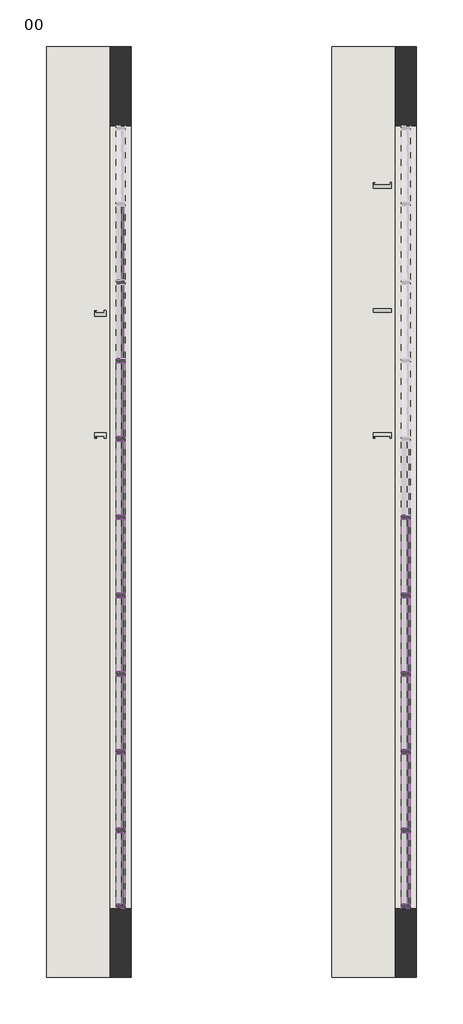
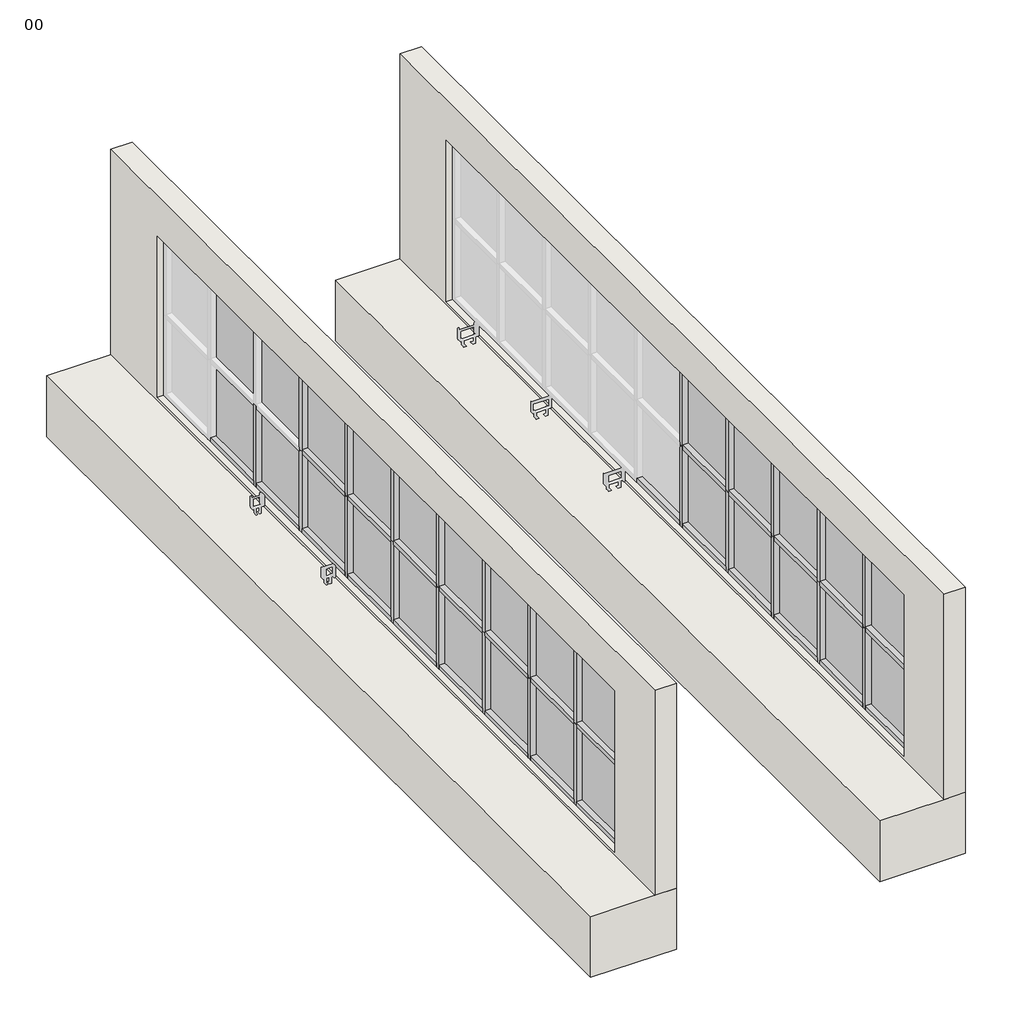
# One storey, part 1 of 4: 69 members, 28 plates, 4 walls.
"""IFC4 building model written with IfcOpenShell, lengths in millimetres."""

from ifc_helpers import new_model, si_unit, frame, origin, place, context, project, spatial, polyline, outline, extrude, faceted_brep, transform, mapped, element, save
from components import member_c66fc3aa, member_e0e8bc7f, member_2b49869a, member_e70b02d8, member_ac28e731, member_75074519, member_3d44bae5, member_bad99366, system_panel_glazed_e46957e3, system_panel_glazed_e2c07b03, system_panel_glazed_19fcf1f5, system_panel_glazed_c41cfb10

model = new_model("IFC4")

# Units and contexts
model_context = context("Model", 3, world=origin())
ifc_project = project(units=[si_unit("LENGTHUNIT", "METRE", prefix="MILLI")], contexts=[model_context])

# Site, building, storey
site = spatial("IfcSite", under=ifc_project)
building = spatial("IfcBuilding", under=site)
storey = spatial("IfcBuildingStorey", under=building, Name="00", Elevation=0.0)

# Members
placement = place(None, origin())
member_shape = member_c66fc3aa(model_context)
element("IfcMember", 1, ObjectType="Rectangular Mullion : 2.5\" x 5\" rectangular", at=placement, inside=storey, context=model_context, shape_type="MappedRepresentation", body=[
    mapped(member_shape, transform((11996.5938902, 990.0404245, 3390.4), x_axis=(0.0, 0.0, 1.0), y_axis=(1.0, 0.0, 0.0), z_axis=(0.0, 1.0, 0.0))),
])
element("IfcMember", 2, ObjectType="Rectangular Mullion : 2.5\" x 5\" rectangular", at=placement, inside=storey, context=model_context, shape_type="MappedRepresentation", body=[
    mapped(member_shape, transform((11996.5938902, 2117.8004244, 3390.4), x_axis=(0.0, 0.0, 1.0), y_axis=(1.0, 0.0, 0.0), z_axis=(0.0, 1.0, 0.0))),
])
element("IfcMember", 3, ObjectType="Rectangular Mullion : 2.5\" x 5\" rectangular", at=placement, inside=storey, context=model_context, shape_type="MappedRepresentation", body=[
    mapped(member_shape, transform((11996.5938902, 3245.5604244, 3390.4), x_axis=(0.0, 0.0, 1.0), y_axis=(1.0, 0.0, 0.0), z_axis=(0.0, 1.0, 0.0))),
])
member_2_shape = member_e0e8bc7f(model_context)
element("IfcMember", 4, ObjectType="Rectangular Mullion : 2.5\" x 5\" rectangular", at=placement, inside=storey, context=model_context, shape_type="MappedRepresentation", body=[
    mapped(member_2_shape, transform((16111.3938902, -5681.2695754, 965.2), x_axis=(0.0, 0.0, -1.0), y_axis=(1.0, 0.0, 0.0), z_axis=(0.0, -1.0, 0.0))),
])
element("IfcMember", 5, ObjectType="Rectangular Mullion : 2.5\" x 5\" rectangular", at=placement, inside=storey, context=model_context, shape_type="MappedRepresentation", body=[
    mapped(member_2_shape, transform((11996.5938902, -5681.2695754, 965.2), x_axis=(0.0, 0.0, -1.0), y_axis=(1.0, 0.0, 0.0), z_axis=(0.0, -1.0, 0.0))),
])
element("IfcMember", 6, ObjectType="Rectangular Mullion : 2.5\" x 5\" rectangular", at=placement, inside=storey, context=model_context, shape_type="MappedRepresentation", body=[
    mapped(member_shape, transform((11996.5938902, 1053.5404245, 965.2), x_axis=(0.0, 0.0, -1.0), y_axis=(1.0, 0.0, 0.0), z_axis=(0.0, -1.0, 0.0))),
])
element("IfcMember", 7, ObjectType="Rectangular Mullion : 2.5\" x 5\" rectangular", at=placement, inside=storey, context=model_context, shape_type="MappedRepresentation", body=[
    mapped(member_shape, transform((11996.5938902, 2181.3004244, 965.2), x_axis=(0.0, 0.0, -1.0), y_axis=(1.0, 0.0, 0.0), z_axis=(0.0, -1.0, 0.0))),
])
element("IfcMember", 8, ObjectType="Rectangular Mullion : 2.5\" x 5\" rectangular", at=placement, inside=storey, context=model_context, shape_type="MappedRepresentation", body=[
    mapped(member_shape, transform((11996.5938902, 3309.0604244, 965.2), x_axis=(0.0, 0.0, -1.0), y_axis=(1.0, 0.0, 0.0), z_axis=(0.0, -1.0, 0.0))),
])
member_3_shape = member_2b49869a(model_context)
element("IfcMember", 9, ObjectType="Rectangular Mullion : 2.5\" x 5\" rectangular", at=placement, inside=storey, context=model_context, shape_type="MappedRepresentation", body=[
    mapped(member_3_shape, transform((11996.5938902, 1021.7904245, 965.2), x_axis=(0.0, 1.0, 0.0), y_axis=(1.0, 0.0, 0.0), z_axis=(0.0, 0.0, -1.0))),
])
element("IfcMember", 10, ObjectType="Rectangular Mullion : 2.5\" x 5\" rectangular", at=placement, inside=storey, context=model_context, shape_type="MappedRepresentation", body=[
    mapped(member_3_shape, transform((11996.5938902, 2149.5504244, 965.2), x_axis=(0.0, 1.0, 0.0), y_axis=(1.0, 0.0, 0.0), z_axis=(0.0, 0.0, -1.0))),
])
element("IfcMember", 11, ObjectType="Rectangular Mullion : 2.5\" x 5\" rectangular", at=placement, inside=storey, context=model_context, shape_type="MappedRepresentation", body=[
    mapped(member_3_shape, transform((11996.5938902, 3277.3104244, 965.2), x_axis=(0.0, 1.0, 0.0), y_axis=(1.0, 0.0, 0.0), z_axis=(0.0, 0.0, -1.0))),
])
member_4_shape = member_e70b02d8(model_context)
element("IfcMember", 12, ObjectType="Rectangular Mullion : 2.5\" x 5\" rectangular", at=placement, inside=storey, context=model_context, shape_type="MappedRepresentation", body=[
    mapped(member_4_shape, transform((11996.5938902, 2117.8004244, 2184.4), x_axis=(0.0, 0.0, 1.0), y_axis=(1.0, 0.0, 0.0), z_axis=(0.0, 1.0, 0.0))),
])
element("IfcMember", 13, ObjectType="Rectangular Mullion : 2.5\" x 5\" rectangular", at=placement, inside=storey, context=model_context, shape_type="MappedRepresentation", body=[
    mapped(member_shape, transform((16111.3938902, -137.7195754, 3390.4), x_axis=(0.0, 0.0, 1.0), y_axis=(1.0, 0.0, 0.0), z_axis=(0.0, 1.0, 0.0))),
])
element("IfcMember", 14, ObjectType="Rectangular Mullion : 2.5\" x 5\" rectangular", at=placement, inside=storey, context=model_context, shape_type="MappedRepresentation", body=[
    mapped(member_shape, transform((16111.3938902, -1265.4795754, 3390.4), x_axis=(0.0, 0.0, 1.0), y_axis=(1.0, 0.0, 0.0), z_axis=(0.0, 1.0, 0.0))),
])
element("IfcMember", 15, ObjectType="Rectangular Mullion : 2.5\" x 5\" rectangular", at=placement, inside=storey, context=model_context, shape_type="MappedRepresentation", body=[
    mapped(member_shape, transform((16111.3938902, -3520.9995752, 3390.4), x_axis=(0.0, 0.0, 1.0), y_axis=(1.0, 0.0, 0.0), z_axis=(0.0, 1.0, 0.0))),
])
element("IfcMember", 16, ObjectType="Rectangular Mullion : 2.5\" x 5\" rectangular", at=placement, inside=storey, context=model_context, shape_type="MappedRepresentation", body=[
    mapped(member_shape, transform((16111.3938902, -2393.2395753, 3390.4), x_axis=(0.0, 0.0, 1.0), y_axis=(1.0, 0.0, 0.0), z_axis=(0.0, 1.0, 0.0))),
])
element("IfcMember", 17, ObjectType="Rectangular Mullion : 2.5\" x 5\" rectangular", at=placement, inside=storey, context=model_context, shape_type="MappedRepresentation", body=[
    mapped(member_shape, transform((11996.5938902, -137.7195754, 3390.4), x_axis=(0.0, 0.0, 1.0), y_axis=(1.0, 0.0, 0.0), z_axis=(0.0, 1.0, 0.0))),
])
element("IfcMember", 18, ObjectType="Rectangular Mullion : 2.5\" x 5\" rectangular", at=placement, inside=storey, context=model_context, shape_type="MappedRepresentation", body=[
    mapped(member_shape, transform((11996.5938902, -1265.4795754, 3390.4), x_axis=(0.0, 0.0, 1.0), y_axis=(1.0, 0.0, 0.0), z_axis=(0.0, 1.0, 0.0))),
])
element("IfcMember", 19, ObjectType="Rectangular Mullion : 2.5\" x 5\" rectangular", at=placement, inside=storey, context=model_context, shape_type="MappedRepresentation", body=[
    mapped(member_shape, transform((11996.5938902, -3520.9995752, 3390.4), x_axis=(0.0, 0.0, 1.0), y_axis=(1.0, 0.0, 0.0), z_axis=(0.0, 1.0, 0.0))),
])
element("IfcMember", 20, ObjectType="Rectangular Mullion : 2.5\" x 5\" rectangular", at=placement, inside=storey, context=model_context, shape_type="MappedRepresentation", body=[
    mapped(member_shape, transform((11996.5938902, -2393.2395753, 3390.4), x_axis=(0.0, 0.0, 1.0), y_axis=(1.0, 0.0, 0.0), z_axis=(0.0, 1.0, 0.0))),
])
element("IfcMember", 21, ObjectType="Rectangular Mullion : 2.5\" x 5\" rectangular", at=placement, inside=storey, context=model_context, shape_type="MappedRepresentation", body=[
    mapped(member_shape, transform((16111.3938902, -74.2195754, 965.2), x_axis=(0.0, 0.0, -1.0), y_axis=(1.0, 0.0, 0.0), z_axis=(0.0, -1.0, 0.0))),
])
element("IfcMember", 22, ObjectType="Rectangular Mullion : 2.5\" x 5\" rectangular", at=placement, inside=storey, context=model_context, shape_type="MappedRepresentation", body=[
    mapped(member_shape, transform((16111.3938902, -1201.9795754, 965.2), x_axis=(0.0, 0.0, -1.0), y_axis=(1.0, 0.0, 0.0), z_axis=(0.0, -1.0, 0.0))),
])
element("IfcMember", 23, ObjectType="Rectangular Mullion : 2.5\" x 5\" rectangular", at=placement, inside=storey, context=model_context, shape_type="MappedRepresentation", body=[
    mapped(member_shape, transform((16111.3938902, -4585.2595752, 965.2), x_axis=(0.0, 0.0, -1.0), y_axis=(1.0, 0.0, 0.0), z_axis=(0.0, -1.0, 0.0))),
])
element("IfcMember", 24, ObjectType="Rectangular Mullion : 2.5\" x 5\" rectangular", at=placement, inside=storey, context=model_context, shape_type="MappedRepresentation", body=[
    mapped(member_shape, transform((16111.3938902, -3457.4995752, 965.2), x_axis=(0.0, 0.0, -1.0), y_axis=(1.0, 0.0, 0.0), z_axis=(0.0, -1.0, 0.0))),
])
element("IfcMember", 25, ObjectType="Rectangular Mullion : 2.5\" x 5\" rectangular", at=placement, inside=storey, context=model_context, shape_type="MappedRepresentation", body=[
    mapped(member_shape, transform((16111.3938902, -2329.7395753, 965.2), x_axis=(0.0, 0.0, -1.0), y_axis=(1.0, 0.0, 0.0), z_axis=(0.0, -1.0, 0.0))),
])
element("IfcMember", 26, ObjectType="Rectangular Mullion : 2.5\" x 5\" rectangular", at=placement, inside=storey, context=model_context, shape_type="MappedRepresentation", body=[
    mapped(member_shape, transform((11996.5938902, -74.2195754, 965.2), x_axis=(0.0, 0.0, -1.0), y_axis=(1.0, 0.0, 0.0), z_axis=(0.0, -1.0, 0.0))),
])
element("IfcMember", 27, ObjectType="Rectangular Mullion : 2.5\" x 5\" rectangular", at=placement, inside=storey, context=model_context, shape_type="MappedRepresentation", body=[
    mapped(member_shape, transform((11996.5938902, -1201.9795754, 965.2), x_axis=(0.0, 0.0, -1.0), y_axis=(1.0, 0.0, 0.0), z_axis=(0.0, -1.0, 0.0))),
])
element("IfcMember", 28, ObjectType="Rectangular Mullion : 2.5\" x 5\" rectangular", at=placement, inside=storey, context=model_context, shape_type="MappedRepresentation", body=[
    mapped(member_shape, transform((11996.5938902, -4585.2595752, 965.2), x_axis=(0.0, 0.0, -1.0), y_axis=(1.0, 0.0, 0.0), z_axis=(0.0, -1.0, 0.0))),
])
element("IfcMember", 29, ObjectType="Rectangular Mullion : 2.5\" x 5\" rectangular", at=placement, inside=storey, context=model_context, shape_type="MappedRepresentation", body=[
    mapped(member_shape, transform((11996.5938902, -3457.4995752, 965.2), x_axis=(0.0, 0.0, -1.0), y_axis=(1.0, 0.0, 0.0), z_axis=(0.0, -1.0, 0.0))),
])
element("IfcMember", 30, ObjectType="Rectangular Mullion : 2.5\" x 5\" rectangular", at=placement, inside=storey, context=model_context, shape_type="MappedRepresentation", body=[
    mapped(member_shape, transform((11996.5938902, -2329.7395753, 965.2), x_axis=(0.0, 0.0, -1.0), y_axis=(1.0, 0.0, 0.0), z_axis=(0.0, -1.0, 0.0))),
])
element("IfcMember", 31, ObjectType="Rectangular Mullion : 2.5\" x 5\" rectangular", at=placement, inside=storey, context=model_context, shape_type="MappedRepresentation", body=[
    mapped(member_4_shape, transform((16111.3938902, -137.7195754, 2184.4), x_axis=(0.0, 0.0, 1.0), y_axis=(1.0, 0.0, 0.0), z_axis=(0.0, 1.0, 0.0))),
])
element("IfcMember", 32, ObjectType="Rectangular Mullion : 2.5\" x 5\" rectangular", at=placement, inside=storey, context=model_context, shape_type="MappedRepresentation", body=[
    mapped(member_4_shape, transform((16111.3938902, -3520.9995752, 2184.4), x_axis=(0.0, 0.0, 1.0), y_axis=(1.0, 0.0, 0.0), z_axis=(0.0, 1.0, 0.0))),
])
element("IfcMember", 33, ObjectType="Rectangular Mullion : 2.5\" x 5\" rectangular", at=placement, inside=storey, context=model_context, shape_type="MappedRepresentation", body=[
    mapped(member_4_shape, transform((16111.3938902, -2393.2395753, 2184.4), x_axis=(0.0, 0.0, 1.0), y_axis=(1.0, 0.0, 0.0), z_axis=(0.0, 1.0, 0.0))),
])
element("IfcMember", 34, ObjectType="Rectangular Mullion : 2.5\" x 5\" rectangular", at=placement, inside=storey, context=model_context, shape_type="MappedRepresentation", body=[
    mapped(member_4_shape, transform((16111.3938902, -1265.4795754, 2184.4), x_axis=(0.0, 0.0, 1.0), y_axis=(1.0, 0.0, 0.0), z_axis=(0.0, 1.0, 0.0))),
])
element("IfcMember", 35, ObjectType="Rectangular Mullion : 2.5\" x 5\" rectangular", at=placement, inside=storey, context=model_context, shape_type="MappedRepresentation", body=[
    mapped(member_4_shape, transform((11996.5938902, 990.0404245, 2184.4), x_axis=(0.0, 0.0, 1.0), y_axis=(1.0, 0.0, 0.0), z_axis=(0.0, 1.0, 0.0))),
])
element("IfcMember", 36, ObjectType="Rectangular Mullion : 2.5\" x 5\" rectangular", at=placement, inside=storey, context=model_context, shape_type="MappedRepresentation", body=[
    mapped(member_4_shape, transform((11996.5938902, -137.7195754, 2184.4), x_axis=(0.0, 0.0, 1.0), y_axis=(1.0, 0.0, 0.0), z_axis=(0.0, 1.0, 0.0))),
])
element("IfcMember", 37, ObjectType="Rectangular Mullion : 2.5\" x 5\" rectangular", at=placement, inside=storey, context=model_context, shape_type="MappedRepresentation", body=[
    mapped(member_4_shape, transform((11996.5938902, -3520.9995752, 2184.4), x_axis=(0.0, 0.0, 1.0), y_axis=(1.0, 0.0, 0.0), z_axis=(0.0, 1.0, 0.0))),
])
element("IfcMember", 38, ObjectType="Rectangular Mullion : 2.5\" x 5\" rectangular", at=placement, inside=storey, context=model_context, shape_type="MappedRepresentation", body=[
    mapped(member_4_shape, transform((11996.5938902, -2393.2395753, 2184.4), x_axis=(0.0, 0.0, 1.0), y_axis=(1.0, 0.0, 0.0), z_axis=(0.0, 1.0, 0.0))),
])
element("IfcMember", 39, ObjectType="Rectangular Mullion : 2.5\" x 5\" rectangular", at=placement, inside=storey, context=model_context, shape_type="MappedRepresentation", body=[
    mapped(member_4_shape, transform((11996.5938902, -1265.4795754, 2184.4), x_axis=(0.0, 0.0, 1.0), y_axis=(1.0, 0.0, 0.0), z_axis=(0.0, 1.0, 0.0))),
])
element("IfcMember", 40, ObjectType="Rectangular Mullion : 2.5\" x 5\" rectangular", at=placement, inside=storey, context=model_context, shape_type="MappedRepresentation", body=[
    mapped(member_3_shape, transform((16111.3938902, -105.9695754, 965.2), x_axis=(0.0, 1.0, 0.0), y_axis=(1.0, 0.0, 0.0), z_axis=(0.0, 0.0, -1.0))),
])
element("IfcMember", 41, ObjectType="Rectangular Mullion : 2.5\" x 5\" rectangular", at=placement, inside=storey, context=model_context, shape_type="MappedRepresentation", body=[
    mapped(member_3_shape, transform((16111.3938902, -1233.7295754, 965.2), x_axis=(0.0, 1.0, 0.0), y_axis=(1.0, 0.0, 0.0), z_axis=(0.0, 0.0, -1.0))),
])
element("IfcMember", 42, ObjectType="Rectangular Mullion : 2.5\" x 5\" rectangular", at=placement, inside=storey, context=model_context, shape_type="MappedRepresentation", body=[
    mapped(member_3_shape, transform((16111.3938902, -2361.4895753, 965.2), x_axis=(0.0, 1.0, 0.0), y_axis=(1.0, 0.0, 0.0), z_axis=(0.0, 0.0, -1.0))),
])
element("IfcMember", 43, ObjectType="Rectangular Mullion : 2.5\" x 5\" rectangular", at=placement, inside=storey, context=model_context, shape_type="MappedRepresentation", body=[
    mapped(member_3_shape, transform((16111.3938902, -3489.2495752, 965.2), x_axis=(0.0, 1.0, 0.0), y_axis=(1.0, 0.0, 0.0), z_axis=(0.0, 0.0, -1.0))),
])
element("IfcMember", 44, ObjectType="Rectangular Mullion : 2.5\" x 5\" rectangular", at=placement, inside=storey, context=model_context, shape_type="MappedRepresentation", body=[
    mapped(member_3_shape, transform((16111.3938902, -4617.0095752, 965.2), x_axis=(0.0, 1.0, 0.0), y_axis=(1.0, 0.0, 0.0), z_axis=(0.0, 0.0, -1.0))),
])
element("IfcMember", 45, ObjectType="Rectangular Mullion : 2.5\" x 5\" rectangular", at=placement, inside=storey, context=model_context, shape_type="MappedRepresentation", body=[
    mapped(member_3_shape, transform((11996.5938902, -105.9695754, 965.2), x_axis=(0.0, 1.0, 0.0), y_axis=(1.0, 0.0, 0.0), z_axis=(0.0, 0.0, -1.0))),
])
element("IfcMember", 46, ObjectType="Rectangular Mullion : 2.5\" x 5\" rectangular", at=placement, inside=storey, context=model_context, shape_type="MappedRepresentation", body=[
    mapped(member_3_shape, transform((11996.5938902, -1233.7295754, 965.2), x_axis=(0.0, 1.0, 0.0), y_axis=(1.0, 0.0, 0.0), z_axis=(0.0, 0.0, -1.0))),
])
element("IfcMember", 47, ObjectType="Rectangular Mullion : 2.5\" x 5\" rectangular", at=placement, inside=storey, context=model_context, shape_type="MappedRepresentation", body=[
    mapped(member_3_shape, transform((11996.5938902, -2361.4895753, 965.2), x_axis=(0.0, 1.0, 0.0), y_axis=(1.0, 0.0, 0.0), z_axis=(0.0, 0.0, -1.0))),
])
element("IfcMember", 48, ObjectType="Rectangular Mullion : 2.5\" x 5\" rectangular", at=placement, inside=storey, context=model_context, shape_type="MappedRepresentation", body=[
    mapped(member_3_shape, transform((11996.5938902, -3489.2495752, 965.2), x_axis=(0.0, 1.0, 0.0), y_axis=(1.0, 0.0, 0.0), z_axis=(0.0, 0.0, -1.0))),
])
element("IfcMember", 49, ObjectType="Rectangular Mullion : 2.5\" x 5\" rectangular", at=placement, inside=storey, context=model_context, shape_type="MappedRepresentation", body=[
    mapped(member_3_shape, transform((11996.5938902, -4617.0095752, 965.2), x_axis=(0.0, 1.0, 0.0), y_axis=(1.0, 0.0, 0.0), z_axis=(0.0, 0.0, -1.0))),
])
element("IfcMember", 50, ObjectType="Rectangular Mullion : 2.5\" x 5\" rectangular", at=placement, inside=storey, context=model_context, shape_type="MappedRepresentation", body=[
    mapped(member_2_shape, transform((16111.3938902, -4648.7595752, 3390.4), x_axis=(0.0, 0.0, 1.0), y_axis=(1.0, 0.0, 0.0), z_axis=(0.0, 1.0, 0.0))),
])
element("IfcMember", 51, ObjectType="Rectangular Mullion : 2.5\" x 5\" rectangular", at=placement, inside=storey, context=model_context, shape_type="MappedRepresentation", body=[
    mapped(member_2_shape, transform((11996.5938902, -4648.7595752, 3390.4), x_axis=(0.0, 0.0, 1.0), y_axis=(1.0, 0.0, 0.0), z_axis=(0.0, 1.0, 0.0))),
])
member_5_shape = member_ac28e731(model_context)
element("IfcMember", 52, ObjectType="Rectangular Mullion : 2.5\" x 5\" rectangular", at=placement, inside=storey, context=model_context, shape_type="MappedRepresentation", body=[
    mapped(member_5_shape, transform((16111.3938902, -4648.7595752, 2184.4), x_axis=(0.0, 0.0, 1.0), y_axis=(1.0, 0.0, 0.0), z_axis=(0.0, 1.0, 0.0))),
])
element("IfcMember", 53, ObjectType="Rectangular Mullion : 2.5\" x 5\" rectangular", at=placement, inside=storey, context=model_context, shape_type="MappedRepresentation", body=[
    mapped(member_5_shape, transform((11996.5938902, -4648.7595752, 2184.4), x_axis=(0.0, 0.0, 1.0), y_axis=(1.0, 0.0, 0.0), z_axis=(0.0, 1.0, 0.0))),
])
member_6_shape = member_75074519(model_context)
element("IfcMember", 54, ObjectType="Rectangular Mullion : 2.5\" x 5\" rectangular", at=placement, inside=storey, context=model_context, shape_type="MappedRepresentation", body=[
    mapped(member_6_shape, transform((16111.3938902, -5744.7695754, 2184.4), x_axis=(0.0, -1.0, 0.0), y_axis=(1.0, 0.0, 0.0), z_axis=(0.0, 0.0, 1.0))),
])
element("IfcMember", 55, ObjectType="Rectangular Mullion : 2.5\" x 5\" rectangular", at=placement, inside=storey, context=model_context, shape_type="MappedRepresentation", body=[
    mapped(member_6_shape, transform((11996.5938902, -5744.7695754, 2184.4), x_axis=(0.0, -1.0, 0.0), y_axis=(1.0, 0.0, 0.0), z_axis=(0.0, 0.0, 1.0))),
])
member_7_shape = member_3d44bae5(model_context)
element("IfcMember", 56, ObjectType="Rectangular Mullion : 2.5\" x 5\" rectangular", at=placement, inside=storey, context=model_context, shape_type="MappedRepresentation", body=[
    mapped(member_7_shape, transform((11996.5938902, 1021.7904245, 2184.4), x_axis=(0.0, 1.0, 0.0), y_axis=(1.0, 0.0, 0.0), z_axis=(0.0, 0.0, -1.0))),
])
element("IfcMember", 57, ObjectType="Rectangular Mullion : 2.5\" x 5\" rectangular", at=placement, inside=storey, context=model_context, shape_type="MappedRepresentation", body=[
    mapped(member_7_shape, transform((11996.5938902, 2149.5504244, 2184.4), x_axis=(0.0, 1.0, 0.0), y_axis=(1.0, 0.0, 0.0), z_axis=(0.0, 0.0, -1.0))),
])
element("IfcMember", 58, ObjectType="Rectangular Mullion : 2.5\" x 5\" rectangular", at=placement, inside=storey, context=model_context, shape_type="MappedRepresentation", body=[
    mapped(member_7_shape, transform((16111.3938902, -105.9695754, 2184.4), x_axis=(0.0, 1.0, 0.0), y_axis=(1.0, 0.0, 0.0), z_axis=(0.0, 0.0, -1.0))),
])
element("IfcMember", 59, ObjectType="Rectangular Mullion : 2.5\" x 5\" rectangular", at=placement, inside=storey, context=model_context, shape_type="MappedRepresentation", body=[
    mapped(member_7_shape, transform((16111.3938902, -1233.7295754, 2184.4), x_axis=(0.0, 1.0, 0.0), y_axis=(1.0, 0.0, 0.0), z_axis=(0.0, 0.0, -1.0))),
])
element("IfcMember", 60, ObjectType="Rectangular Mullion : 2.5\" x 5\" rectangular", at=placement, inside=storey, context=model_context, shape_type="MappedRepresentation", body=[
    mapped(member_7_shape, transform((16111.3938902, -2361.4895753, 2184.4), x_axis=(0.0, 1.0, 0.0), y_axis=(1.0, 0.0, 0.0), z_axis=(0.0, 0.0, -1.0))),
])
element("IfcMember", 61, ObjectType="Rectangular Mullion : 2.5\" x 5\" rectangular", at=placement, inside=storey, context=model_context, shape_type="MappedRepresentation", body=[
    mapped(member_7_shape, transform((16111.3938902, -3489.2495752, 2184.4), x_axis=(0.0, 1.0, 0.0), y_axis=(1.0, 0.0, 0.0), z_axis=(0.0, 0.0, -1.0))),
])
element("IfcMember", 62, ObjectType="Rectangular Mullion : 2.5\" x 5\" rectangular", at=placement, inside=storey, context=model_context, shape_type="MappedRepresentation", body=[
    mapped(member_7_shape, transform((16111.3938902, -4617.0095752, 2184.4), x_axis=(0.0, 1.0, 0.0), y_axis=(1.0, 0.0, 0.0), z_axis=(0.0, 0.0, -1.0))),
])
element("IfcMember", 63, ObjectType="Rectangular Mullion : 2.5\" x 5\" rectangular", at=placement, inside=storey, context=model_context, shape_type="MappedRepresentation", body=[
    mapped(member_7_shape, transform((11996.5938902, -105.9695754, 2184.4), x_axis=(0.0, 1.0, 0.0), y_axis=(1.0, 0.0, 0.0), z_axis=(0.0, 0.0, -1.0))),
])
element("IfcMember", 64, ObjectType="Rectangular Mullion : 2.5\" x 5\" rectangular", at=placement, inside=storey, context=model_context, shape_type="MappedRepresentation", body=[
    mapped(member_7_shape, transform((11996.5938902, -1233.7295754, 2184.4), x_axis=(0.0, 1.0, 0.0), y_axis=(1.0, 0.0, 0.0), z_axis=(0.0, 0.0, -1.0))),
])
element("IfcMember", 65, ObjectType="Rectangular Mullion : 2.5\" x 5\" rectangular", at=placement, inside=storey, context=model_context, shape_type="MappedRepresentation", body=[
    mapped(member_7_shape, transform((11996.5938902, -2361.4895753, 2184.4), x_axis=(0.0, 1.0, 0.0), y_axis=(1.0, 0.0, 0.0), z_axis=(0.0, 0.0, -1.0))),
])
element("IfcMember", 66, ObjectType="Rectangular Mullion : 2.5\" x 5\" rectangular", at=placement, inside=storey, context=model_context, shape_type="MappedRepresentation", body=[
    mapped(member_7_shape, transform((11996.5938902, -3489.2495752, 2184.4), x_axis=(0.0, 1.0, 0.0), y_axis=(1.0, 0.0, 0.0), z_axis=(0.0, 0.0, -1.0))),
])
element("IfcMember", 67, ObjectType="Rectangular Mullion : 2.5\" x 5\" rectangular", at=placement, inside=storey, context=model_context, shape_type="MappedRepresentation", body=[
    mapped(member_7_shape, transform((11996.5938902, -4617.0095752, 2184.4), x_axis=(0.0, 1.0, 0.0), y_axis=(1.0, 0.0, 0.0), z_axis=(0.0, 0.0, -1.0))),
])
member_8_shape = member_bad99366(model_context)
element("IfcMember", 68, ObjectType="Rectangular Mullion : 2.5\" x 5\" rectangular", at=placement, inside=storey, context=model_context, shape_type="MappedRepresentation", body=[
    mapped(member_8_shape, transform((16111.3938902, -5744.7695754, 3390.4), x_axis=(0.0, -1.0, 0.0), y_axis=(1.0, 0.0, 0.0), z_axis=(0.0, 0.0, 1.0))),
])
element("IfcMember", 69, ObjectType="Rectangular Mullion : 2.5\" x 5\" rectangular", at=placement, inside=storey, context=model_context, shape_type="MappedRepresentation", body=[
    mapped(member_8_shape, transform((11996.5938902, -5744.7695754, 3390.4), x_axis=(0.0, -1.0, 0.0), y_axis=(1.0, 0.0, 0.0), z_axis=(0.0, 0.0, 1.0))),
])

# Plates
system_panel_glazed_shape = system_panel_glazed_e46957e3(model_context)
element("IfcPlate", 70, ObjectType="System Panel : Glazed", at=placement, inside=storey, context=model_context, shape_type="MappedRepresentation", body=[
    mapped(system_panel_glazed_shape, transform((16111.3938902, -669.8495754, 1028.7), x_axis=(0.0, 1.0, 0.0), y_axis=(-1.0, 0.0, 0.0), z_axis=(0.0, 0.0, 1.0))),
])
element("IfcPlate", 71, ObjectType="System Panel : Glazed", at=placement, inside=storey, context=model_context, shape_type="MappedRepresentation", body=[
    mapped(system_panel_glazed_shape, transform((16111.3938902, -1797.6095753, 1028.7), x_axis=(0.0, 1.0, 0.0), y_axis=(-1.0, 0.0, 0.0), z_axis=(0.0, 0.0, 1.0))),
])
element("IfcPlate", 72, ObjectType="System Panel : Glazed", at=placement, inside=storey, context=model_context, shape_type="MappedRepresentation", body=[
    mapped(system_panel_glazed_shape, transform((16111.3938902, -2925.3695753, 1028.7), x_axis=(0.0, 1.0, 0.0), y_axis=(-1.0, 0.0, 0.0), z_axis=(0.0, 0.0, 1.0))),
])
element("IfcPlate", 73, ObjectType="System Panel : Glazed", at=placement, inside=storey, context=model_context, shape_type="MappedRepresentation", body=[
    mapped(system_panel_glazed_shape, transform((16111.3938902, -4053.1295752, 1028.7), x_axis=(0.0, 1.0, 0.0), y_axis=(-1.0, 0.0, 0.0), z_axis=(0.0, 0.0, 1.0))),
])
element("IfcPlate", 74, ObjectType="System Panel : Glazed", at=placement, inside=storey, context=model_context, shape_type="MappedRepresentation", body=[
    mapped(system_panel_glazed_shape, transform((11996.5938902, 1585.6704245, 1028.7), x_axis=(0.0, 1.0, 0.0), y_axis=(-1.0, 0.0, 0.0), z_axis=(0.0, 0.0, 1.0))),
])
element("IfcPlate", 75, ObjectType="System Panel : Glazed", at=placement, inside=storey, context=model_context, shape_type="MappedRepresentation", body=[
    mapped(system_panel_glazed_shape, transform((11996.5938902, 2713.4304244, 1028.7), x_axis=(0.0, 1.0, 0.0), y_axis=(-1.0, 0.0, 0.0), z_axis=(0.0, 0.0, 1.0))),
])
element("IfcPlate", 76, ObjectType="System Panel : Glazed", at=placement, inside=storey, context=model_context, shape_type="MappedRepresentation", body=[
    mapped(system_panel_glazed_shape, transform((11996.5938902, 3841.1904244, 1028.7), x_axis=(0.0, 1.0, 0.0), y_axis=(-1.0, 0.0, 0.0), z_axis=(0.0, 0.0, 1.0))),
])
element("IfcPlate", 77, ObjectType="System Panel : Glazed", at=placement, inside=storey, context=model_context, shape_type="MappedRepresentation", body=[
    mapped(system_panel_glazed_shape, transform((11996.5938902, 457.9104245, 1028.7), x_axis=(0.0, 1.0, 0.0), y_axis=(-1.0, 0.0, 0.0), z_axis=(0.0, 0.0, 1.0))),
])
element("IfcPlate", 78, ObjectType="System Panel : Glazed", at=placement, inside=storey, context=model_context, shape_type="MappedRepresentation", body=[
    mapped(system_panel_glazed_shape, transform((11996.5938902, -669.8495754, 1028.7), x_axis=(0.0, 1.0, 0.0), y_axis=(-1.0, 0.0, 0.0), z_axis=(0.0, 0.0, 1.0))),
])
element("IfcPlate", 79, ObjectType="System Panel : Glazed", at=placement, inside=storey, context=model_context, shape_type="MappedRepresentation", body=[
    mapped(system_panel_glazed_shape, transform((11996.5938902, -1797.6095753, 1028.7), x_axis=(0.0, 1.0, 0.0), y_axis=(-1.0, 0.0, 0.0), z_axis=(0.0, 0.0, 1.0))),
])
element("IfcPlate", 80, ObjectType="System Panel : Glazed", at=placement, inside=storey, context=model_context, shape_type="MappedRepresentation", body=[
    mapped(system_panel_glazed_shape, transform((11996.5938902, -2925.3695753, 1028.7), x_axis=(0.0, 1.0, 0.0), y_axis=(-1.0, 0.0, 0.0), z_axis=(0.0, 0.0, 1.0))),
])
element("IfcPlate", 81, ObjectType="System Panel : Glazed", at=placement, inside=storey, context=model_context, shape_type="MappedRepresentation", body=[
    mapped(system_panel_glazed_shape, transform((11996.5938902, -4053.1295752, 1028.7), x_axis=(0.0, 1.0, 0.0), y_axis=(-1.0, 0.0, 0.0), z_axis=(0.0, 0.0, 1.0))),
])
system_panel_glazed_2_shape = system_panel_glazed_e2c07b03(model_context)
element("IfcPlate", 82, ObjectType="System Panel : Glazed", at=placement, inside=storey, context=model_context, shape_type="MappedRepresentation", body=[
    mapped(system_panel_glazed_2_shape, transform((16111.3938902, -5165.0145753, 1028.7), x_axis=(0.0, 1.0, 0.0), y_axis=(-1.0, 0.0, 0.0), z_axis=(0.0, 0.0, 1.0))),
])
element("IfcPlate", 83, ObjectType="System Panel : Glazed", at=placement, inside=storey, context=model_context, shape_type="MappedRepresentation", body=[
    mapped(system_panel_glazed_2_shape, transform((11996.5938902, -5165.0145753, 1028.7), x_axis=(0.0, 1.0, 0.0), y_axis=(-1.0, 0.0, 0.0), z_axis=(0.0, 0.0, 1.0))),
])
system_panel_glazed_3_shape = system_panel_glazed_19fcf1f5(model_context)
element("IfcPlate", 84, ObjectType="System Panel : Glazed", at=placement, inside=storey, context=model_context, shape_type="MappedRepresentation", body=[
    mapped(system_panel_glazed_3_shape, transform((16111.3938902, -5165.0145753, 2216.15), x_axis=(0.0, 1.0, 0.0), y_axis=(-1.0, 0.0, 0.0), z_axis=(0.0, 0.0, 1.0))),
])
element("IfcPlate", 85, ObjectType="System Panel : Glazed", at=placement, inside=storey, context=model_context, shape_type="MappedRepresentation", body=[
    mapped(system_panel_glazed_3_shape, transform((11996.5938902, -5165.0145753, 2216.15), x_axis=(0.0, 1.0, 0.0), y_axis=(-1.0, 0.0, 0.0), z_axis=(0.0, 0.0, 1.0))),
])
system_panel_glazed_4_shape = system_panel_glazed_c41cfb10(model_context)
element("IfcPlate", 86, ObjectType="System Panel : Glazed", at=placement, inside=storey, context=model_context, shape_type="MappedRepresentation", body=[
    mapped(system_panel_glazed_4_shape, transform((16111.3938902, -669.8495754, 2216.15), x_axis=(0.0, 1.0, 0.0), y_axis=(-1.0, 0.0, 0.0), z_axis=(0.0, 0.0, 1.0))),
])
element("IfcPlate", 87, ObjectType="System Panel : Glazed", at=placement, inside=storey, context=model_context, shape_type="MappedRepresentation", body=[
    mapped(system_panel_glazed_4_shape, transform((16111.3938902, -1797.6095753, 2216.15), x_axis=(0.0, 1.0, 0.0), y_axis=(-1.0, 0.0, 0.0), z_axis=(0.0, 0.0, 1.0))),
])
element("IfcPlate", 88, ObjectType="System Panel : Glazed", at=placement, inside=storey, context=model_context, shape_type="MappedRepresentation", body=[
    mapped(system_panel_glazed_4_shape, transform((16111.3938902, -2925.3695753, 2216.15), x_axis=(0.0, 1.0, 0.0), y_axis=(-1.0, 0.0, 0.0), z_axis=(0.0, 0.0, 1.0))),
])
element("IfcPlate", 89, ObjectType="System Panel : Glazed", at=placement, inside=storey, context=model_context, shape_type="MappedRepresentation", body=[
    mapped(system_panel_glazed_4_shape, transform((16111.3938902, -4053.1295752, 2216.15), x_axis=(0.0, 1.0, 0.0), y_axis=(-1.0, 0.0, 0.0), z_axis=(0.0, 0.0, 1.0))),
])
element("IfcPlate", 90, ObjectType="System Panel : Glazed", at=placement, inside=storey, context=model_context, shape_type="MappedRepresentation", body=[
    mapped(system_panel_glazed_4_shape, transform((11996.5938902, 1585.6704245, 2216.15), x_axis=(0.0, 1.0, 0.0), y_axis=(-1.0, 0.0, 0.0), z_axis=(0.0, 0.0, 1.0))),
])
element("IfcPlate", 91, ObjectType="System Panel : Glazed", at=placement, inside=storey, context=model_context, shape_type="MappedRepresentation", body=[
    mapped(system_panel_glazed_4_shape, transform((11996.5938902, 2713.4304244, 2216.15), x_axis=(0.0, 1.0, 0.0), y_axis=(-1.0, 0.0, 0.0), z_axis=(0.0, 0.0, 1.0))),
])
element("IfcPlate", 92, ObjectType="System Panel : Glazed", at=placement, inside=storey, context=model_context, shape_type="MappedRepresentation", body=[
    mapped(system_panel_glazed_4_shape, transform((11996.5938902, 3841.1904244, 2216.15), x_axis=(0.0, 1.0, 0.0), y_axis=(-1.0, 0.0, 0.0), z_axis=(0.0, 0.0, 1.0))),
])
element("IfcPlate", 93, ObjectType="System Panel : Glazed", at=placement, inside=storey, context=model_context, shape_type="MappedRepresentation", body=[
    mapped(system_panel_glazed_4_shape, transform((11996.5938902, 457.9104245, 2216.15), x_axis=(0.0, 1.0, 0.0), y_axis=(-1.0, 0.0, 0.0), z_axis=(0.0, 0.0, 1.0))),
])
element("IfcPlate", 94, ObjectType="System Panel : Glazed", at=placement, inside=storey, context=model_context, shape_type="MappedRepresentation", body=[
    mapped(system_panel_glazed_4_shape, transform((11996.5938902, -669.8495754, 2216.15), x_axis=(0.0, 1.0, 0.0), y_axis=(-1.0, 0.0, 0.0), z_axis=(0.0, 0.0, 1.0))),
])
element("IfcPlate", 95, ObjectType="System Panel : Glazed", at=placement, inside=storey, context=model_context, shape_type="MappedRepresentation", body=[
    mapped(system_panel_glazed_4_shape, transform((11996.5938902, -1797.6095753, 2216.15), x_axis=(0.0, 1.0, 0.0), y_axis=(-1.0, 0.0, 0.0), z_axis=(0.0, 0.0, 1.0))),
])
element("IfcPlate", 96, ObjectType="System Panel : Glazed", at=placement, inside=storey, context=model_context, shape_type="MappedRepresentation", body=[
    mapped(system_panel_glazed_4_shape, transform((11996.5938902, -2925.3695753, 2216.15), x_axis=(0.0, 1.0, 0.0), y_axis=(-1.0, 0.0, 0.0), z_axis=(0.0, 0.0, 1.0))),
])
element("IfcPlate", 97, ObjectType="System Panel : Glazed", at=placement, inside=storey, context=model_context, shape_type="MappedRepresentation", body=[
    mapped(system_panel_glazed_4_shape, transform((11996.5938902, -4053.1295752, 2216.15), x_axis=(0.0, 1.0, 0.0), y_axis=(-1.0, 0.0, 0.0), z_axis=(0.0, 0.0, 1.0))),
])

# Walls
element("IfcWall", 98, ObjectType="External Wall 12\"", at=placement, inside=storey, context=model_context, shape_type="SweptSolid", body=[
    extrude(outline(polyline([(6675.8304246, 914.4), (-6735.3695754, 914.4), (-6735.3695754, 4000.0), (6675.8304246, 4000.0), (6675.8304246, 914.4)]), holes=[polyline([(-5744.7695754, 3390.4), (-5744.7695754, 965.2), (5532.8304246, 965.2), (5532.8304246, 3390.4), (-5744.7695754, 3390.4)])]), frame((15958.9938902, 0.0, 0.0), z_axis=(1.0, 0.0, 0.0), x_axis=(0.0, 1.0, 0.0)), (0.0, 0.0, 1.0), 304.8),
])
element("IfcWall", 99, ObjectType="External Wall 12\"", at=placement, inside=storey, context=model_context, shape_type="SweptSolid", body=[
    extrude(outline(polyline([(6675.8304246, 914.4), (-6735.3695754, 914.4), (-6735.3695754, 4000.0), (6675.8304246, 4000.0), (6675.8304246, 914.4)]), holes=[polyline([(-5744.7695754, 3390.4), (-5744.7695754, 965.2), (5532.8304246, 965.2), (5532.8304246, 3390.4), (-5744.7695754, 3390.4)])]), frame((11844.1938902, 0.0, 0.0), z_axis=(1.0, 0.0, 0.0), x_axis=(0.0, 1.0, 0.0)), (0.0, 0.0, 1.0), 304.8),
])
element("IfcWall", 100, ObjectType="Foundation External Wall", at=placement, inside=storey, context=model_context, shape_type="Brep", body=[
    faceted_brep([(15044.5938902, 6675.8304246, 0.0), (15044.5938902, -6735.3695754, 0.0), (15044.5938902, -6735.3695754, 914.4), (15044.5938902, 6675.8304246, 914.4), (16263.7938902, 6675.8304246, 0.0), (16263.7938902, 6675.8304246, 914.4), (16263.7938902, -6735.3695754, 914.4), (16263.7938902, -6735.3695754, 0.0), (15958.9938902, -6735.3695754, 914.4), (15958.9938902, 6675.8304246, 914.4)], [[[0, 1, 2, 3]], [[4, 5, 6, 7]], [[1, 0, 4, 7]], [[2, 1, 7, 6, 8]], [[3, 2, 8, 6, 5, 9]], [[0, 3, 9, 5, 4]]]),
])
element("IfcWall", 101, ObjectType="Foundation External Wall", at=placement, inside=storey, context=model_context, shape_type="Brep", body=[
    faceted_brep([(10929.7938902, 6675.8304246, 0.0), (10929.7938902, -6735.3695754, 0.0), (10929.7938902, -6735.3695754, 914.4), (10929.7938902, 6675.8304246, 914.4), (12148.9938902, 6675.8304246, 0.0), (12148.9938902, 6675.8304246, 914.4), (12148.9938902, -6735.3695754, 914.4), (12148.9938902, -6735.3695754, 0.0), (11844.1938902, -6735.3695754, 914.4), (11844.1938902, 6675.8304246, 914.4)], [[[0, 1, 2, 3]], [[4, 5, 6, 7]], [[1, 0, 4, 7]], [[2, 1, 7, 6, 8]], [[3, 2, 8, 6, 5, 9]], [[0, 3, 9, 5, 4]]]),
])

save(model, "model.ifc")
